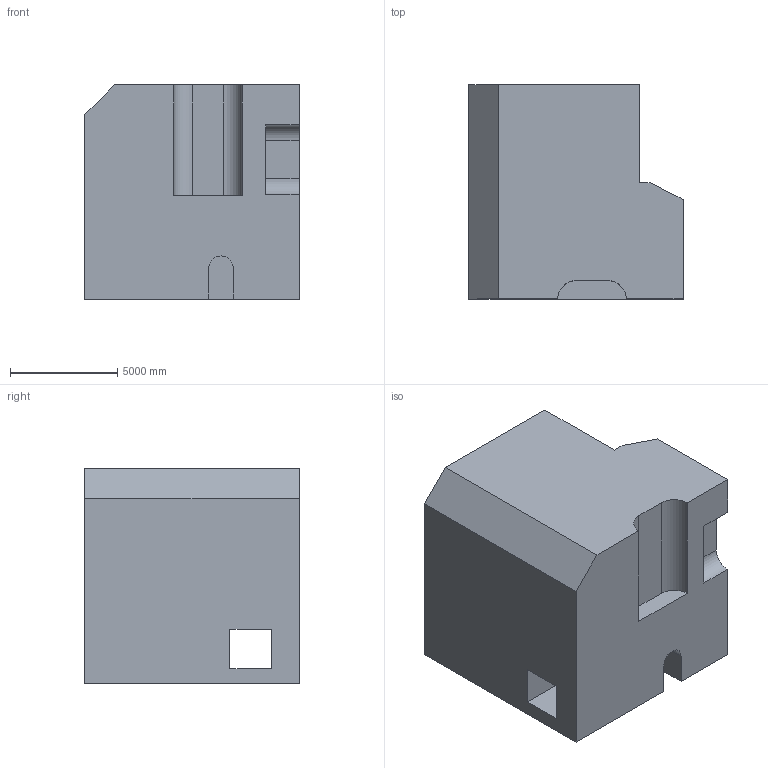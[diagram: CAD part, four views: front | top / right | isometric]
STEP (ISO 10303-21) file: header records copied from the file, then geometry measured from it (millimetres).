
FILE_DESCRIPTION (( 'STEP AP203' ), '1' );
FILE_NAME ('1706.STEP', '2022-08-19T11:54:38', ( 'user' ), ( '' ), 'SwSTEP 2.0', 'SolidWorks 2021', '' );
FILE_SCHEMA (( 'CONFIG_CONTROL_DESIGN' ));
Length unit declared in the file: centimetre
Products named in the file (1): 1706
Bounding box: 10000 x 10000 x 10000 mm (x, y, z)
Volume: 802185252060 mm3; surface area: 661962522.1 mm2
Topology: 1 solids, 1 shells, 33 faces, 99 edges, 66 vertices
Faces by surface type: plane 25, cylinder 8
Entity records: 1192 total; most frequent: CARTESIAN_POINT 205, ORIENTED_EDGE 198, DIRECTION 179, EDGE_CURVE 99, VECTOR 83, LINE 83, VERTEX_POINT 66, AXIS2_PLACEMENT_3D 48
